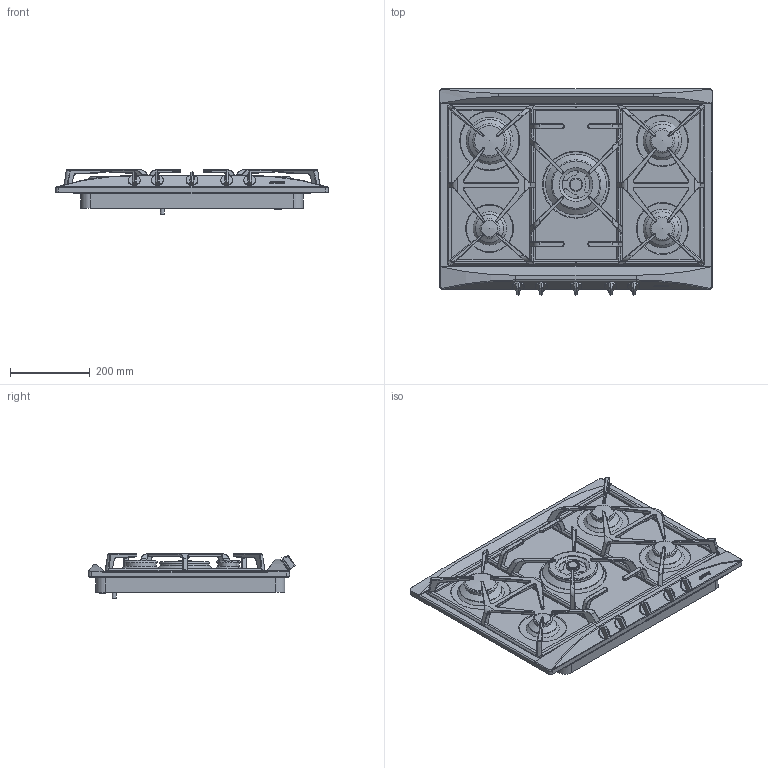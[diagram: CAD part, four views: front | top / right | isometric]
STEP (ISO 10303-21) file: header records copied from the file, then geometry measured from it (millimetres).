
FILE_DESCRIPTION(/* description */ (''),/* implementation_level */ '2;1');
FILE_NAME(/* name */ 'piano sr275.stp',/* time_stamp */ '2019-12-05T17:11:45+01:00',/* author */ (''),/* organization */ (''),/* preprocessor_version */ 'ST-DEVELOPER v16',/* originating_system */ 'SIEMENS PLM Software NX 11.0',/* authorisation */ '');
FILE_SCHEMA (('AUTOMOTIVE_DESIGN { 1 0 10303 214 3 1 1 1 }'));
Length unit declared in the file: millimetre
Products named in the file (1): Mart18FC2E5C16to
Bounding box: 683 x 518.08 x 111.3 mm (x, y, z)
Volume: 15747943.3 mm3; surface area: 1873827.2 mm2
Topology: 31 solids, 31 shells, 1295 faces, 3072 edges, 1858 vertices
Faces by surface type: plane 493, cylinder 485, bspline 166, torus 91, cone 31, sphere 18, extrusion 11
Full cylindrical faces by diameter (mm): 3.37 x6, 10 x13, 16 x7, 23 x6, 23.5 x1, 28 x1, 30 x5, 32 x1, 42 x1, 43 x1, 55 x2, 56 x2, 70.5 x1, 77.5 x1, 78.5 x1, 79.5 x1, 83 x2, 85 x1, 89.5 x1, 90 x1, 98.5 x1, 106 x1, 106.5 x1, 111 x1, 113.5 x1, 122 x1, 124 x1, 152 x1
Entity records: 39286 total; most frequent: CARTESIAN_POINT 9721, DIRECTION 6434, ORIENTED_EDGE 5854, EDGE_CURVE 2927, AXIS2_PLACEMENT_3D 2494, VERTEX_POINT 1831, EDGE_LOOP 1452, VECTOR 1446
